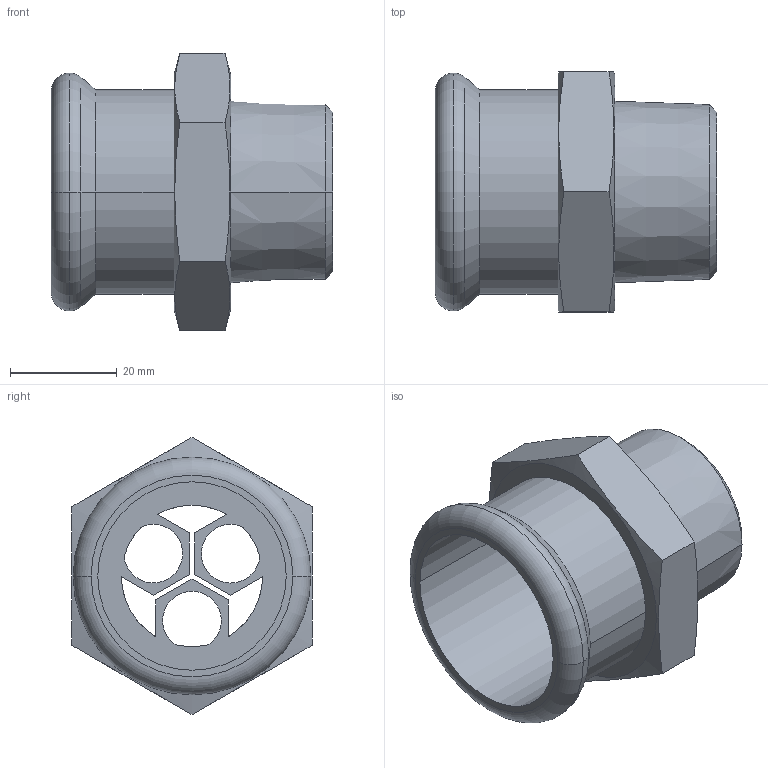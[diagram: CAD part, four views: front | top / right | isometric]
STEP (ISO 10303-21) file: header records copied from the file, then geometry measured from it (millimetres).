
FILE_DESCRIPTION(('OneSpaceDesigner STEP Export'),'2;1');
FILE_NAME('R2705 35xR1.stp','2010-06-09T11:06:30',(''),(''),'OneSpace Designer STEP processor for AP214 (Solid Model)','OneSpace Modeling 15.00A 14-Mar-2007 (C) CoCreate Software GmbH','');
FILE_SCHEMA(('AUTOMOTIVE_DESIGN { 1 0 10303 214 1 1 1 1 }'));
Length unit declared in the file: millimetre
Products named in the file (2): R2705_35xR1
Assembly tree (1 placements, depth 2):
  R2705_35xR1
    R2705_35xR1
Bounding box: 52.7 x 45 x 51.96 mm (x, y, z)
Volume: 23933.9 mm3; surface area: 14749.7 mm2
Topology: 1 solids, 1 shells, 52 faces, 143 edges, 93 vertices
Faces by surface type: plane 26, cylinder 12, cone 10, torus 4
Entity records: 2285 total; most frequent: CARTESIAN_POINT 1038, ORIENTED_EDGE 286, DIRECTION 204, EDGE_CURVE 143, VERTEX_POINT 93, VECTOR 70, LINE 70, AXIS2_PLACEMENT_3D 67
